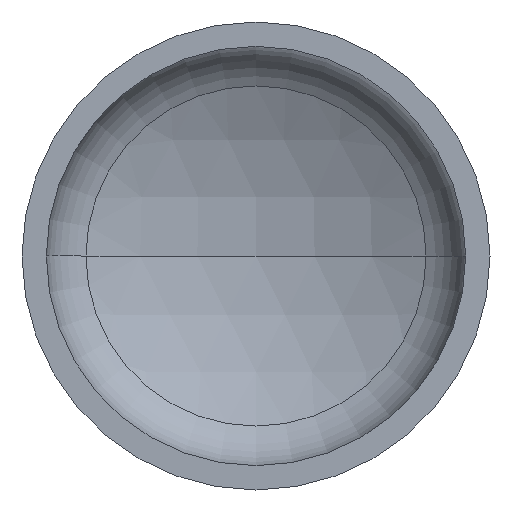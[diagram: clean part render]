
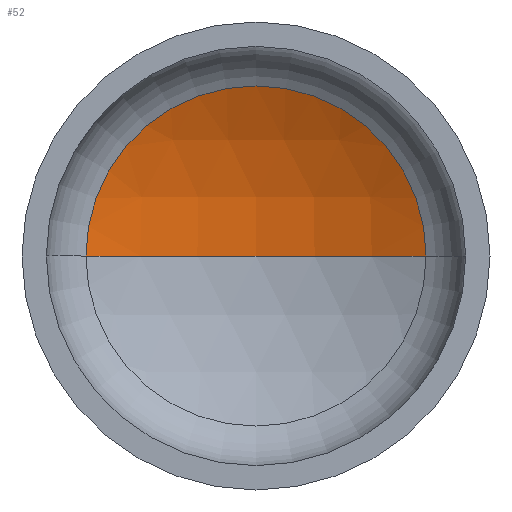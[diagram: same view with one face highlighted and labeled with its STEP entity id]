
A CAD part, front view. The second image highlights one B-rep face of the part: STEP entity #52.
In plain terms, the highlighted spherical face has radius 1600 mm.
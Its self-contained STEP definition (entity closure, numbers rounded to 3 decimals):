
#12 = ORIENTED_EDGE ( 'NONE', *, *, #128, .F. ) ;
#16 = EDGE_LOOP ( 'NONE', ( #12, #86, #40 ) ) ;
#23 = AXIS2_PLACEMENT_3D ( 'NONE', #261, #259, #257 ) ;
#24 = AXIS2_PLACEMENT_3D ( 'NONE', #197, #199, #210 ) ;
#28 = AXIS2_PLACEMENT_3D ( 'NONE', #218, #166, #309 ) ;
#39 = VERTEX_POINT ( 'NONE', #288 ) ;
#40 = ORIENTED_EDGE ( 'NONE', *, *, #118, .T. ) ;
#51 = VERTEX_POINT ( 'NONE', #265 ) ;
#52 = ADVANCED_FACE ( 'NONE', ( #156 ), #345, .F. ) ;
#84 = AXIS2_PLACEMENT_3D ( 'NONE', #285, #250, #230 ) ;
#86 = ORIENTED_EDGE ( 'NONE', *, *, #126, .T. ) ;
#88 = VERTEX_POINT ( 'NONE', #229 ) ;
#118 = EDGE_CURVE ( 'NONE', #51, #39, #388, .T. ) ;
#126 = EDGE_CURVE ( 'NONE', #88, #51, #275, .T. ) ;
#128 = EDGE_CURVE ( 'NONE', #88, #39, #267, .T. ) ;
#156 = FACE_OUTER_BOUND ( 'NONE', #16, .T. ) ;
#166 = DIRECTION ( 'NONE',  ( 0., -1., 0. ) ) ;
#197 = CARTESIAN_POINT ( 'NONE',  ( 0., -1074.219, 0. ) ) ;
#199 = DIRECTION ( 'NONE',  ( 0., 0., -1. ) ) ;
#210 = DIRECTION ( 'NONE',  ( -1., 0., 0. ) ) ;
#218 = CARTESIAN_POINT ( 'NONE',  ( 0., 351.169, 0. ) ) ;
#229 = CARTESIAN_POINT ( 'NONE',  ( 0., 525.781, 0. ) ) ;
#230 = DIRECTION ( 'NONE',  ( -1., 0., 0. ) ) ;
#250 = DIRECTION ( 'NONE',  ( 0., 0., -1. ) ) ;
#257 = DIRECTION ( 'NONE',  ( 1., 0., 0. ) ) ;
#259 = DIRECTION ( 'NONE',  ( 0., 0., 1. ) ) ;
#261 = CARTESIAN_POINT ( 'NONE',  ( 0., -1074.219, 0. ) ) ;
#265 = CARTESIAN_POINT ( 'NONE',  ( 726.822, 351.169, 0. ) ) ;
#267 = CIRCLE ( 'NONE', #23, 1600. ) ;
#275 = CIRCLE ( 'NONE', #24, 1600. ) ;
#285 = CARTESIAN_POINT ( 'NONE',  ( 0., -1074.219, 0. ) ) ;
#288 = CARTESIAN_POINT ( 'NONE',  ( -726.822, 351.169, 0. ) ) ;
#309 = DIRECTION ( 'NONE',  ( 1., 0., 0. ) ) ;
#345 = SPHERICAL_SURFACE ( 'NONE', #84, 1600. ) ;
#388 = CIRCLE ( 'NONE', #28, 726.822 ) ;
